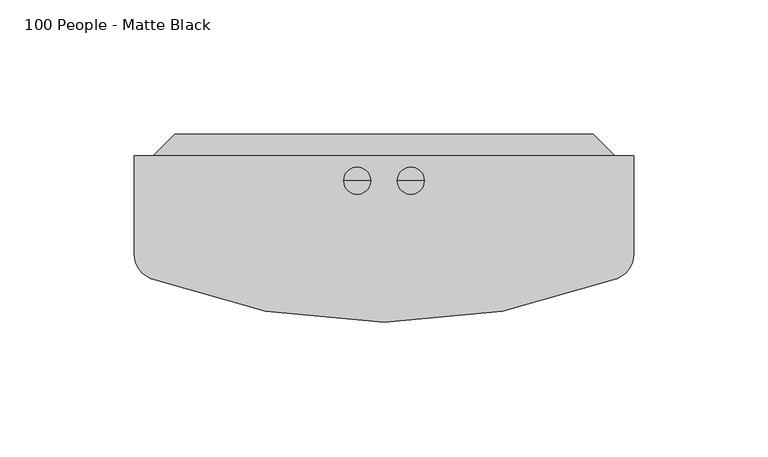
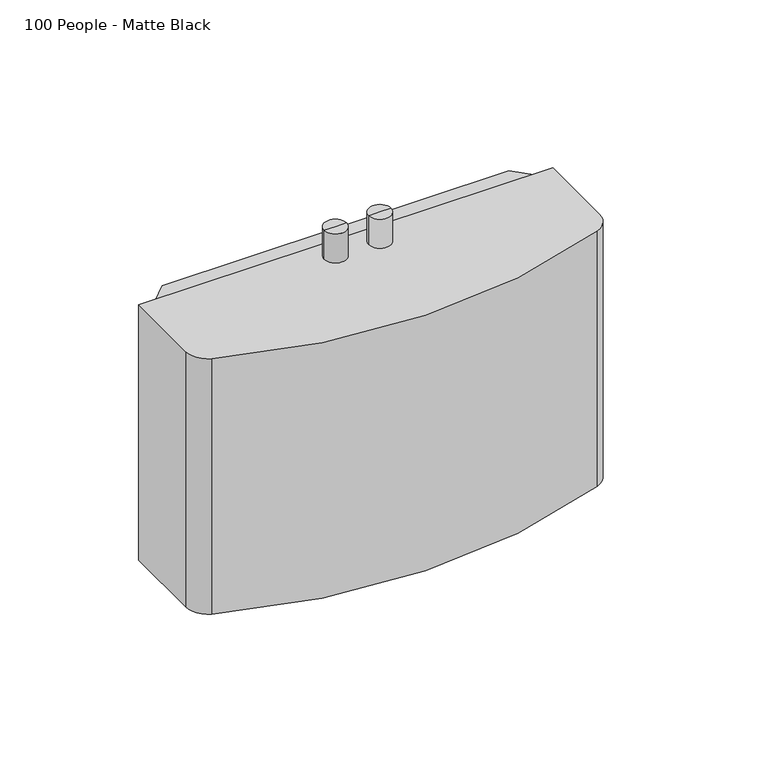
"""IFC4 building model written with IfcOpenShell, lengths in millimetres: flow terminal geometry, PlumFixt_Zip Commercial_Classic_Arc Mixer_BCHA : 100 People - Matte Black."""

from ifc_helpers import new_model, si_unit, point, frame, frame_2d, origin, place, context, project, spatial, polyline, circle_curve, trimmed, segment, composite_curve, outline, extrude, source, transform, mapped, element, save
from ifc_brep_helpers import plane_surface, cylinder_surface, advanced_brep


def flow_terminal_100_people_matte_black_1da322c1(model_context):
    return source(origin(), model_context, "Body", "SolidModel", [
        advanced_brep(
        [(-9.0, 268.188161, 633.0), (-14.0, 268.188161, 633.0), (-4.0, 268.188161, 633.0), (-4.0, 268.188161, 619.25), (-14.0, 268.188161, 619.25), (-9.0, 268.188161, 619.25)],
        [
            (0, 1),
            (1, 2, circle_curve(frame((-9.0, 268.188161, 633.0), z_axis=(0.0, 0.0, 1.0), x_axis=(-1.0, 0.0, 0.0)), 5.0)),
            (2, 0),
            (2, 1, circle_curve(frame((-9.0, 268.188161, 633.0), z_axis=(0.0, 0.0, 1.0), x_axis=(-1.0, 0.0, 0.0)), 5.0)),
            (3, 4, circle_curve(frame((-9.0, 268.188161, 619.25), z_axis=(0.0, 0.0, -1.0), x_axis=(-1.0, 0.0, 0.0)), 5.0)),
            (4, 5),
            (5, 3),
            (4, 3, circle_curve(frame((-9.0, 268.188161, 619.25), z_axis=(0.0, 0.0, -1.0), x_axis=(-1.0, 0.0, 0.0)), 5.0)),
            (1, 4),
            (3, 2),
        ],
        [
            plane_surface(frame((-9.0, 268.188161, 633.0), z_axis=(0.0, 0.0, 1.0), x_axis=(-1.0, 0.0, 0.0))),
            plane_surface(frame((-9.0, 268.188161, 619.25), z_axis=(0.0, 0.0, -1.0), x_axis=(-1.0, 0.0, 0.0))),
            cylinder_surface(frame((-9.0, 268.188161, 621.734876), z_axis=(0.0, 0.0, 1.0), x_axis=(-1.0, 0.0, 0.0)), 5.0),
        ],
        [
            (0, [[1, 2, 3]]),
            (0, [[-3, 4, -1]]),
            (1, [[5, 6, 7]]),
            (1, [[8, -7, -6]]),
            (2, [[-2, 9, -5, 10]]),
            (2, [[-4, -10, -8, -9]]),
        ],
    ),
        advanced_brep(
        [(6.0, 268.188161, 633.0), (16.0, 268.188161, 633.0), (11.0, 268.188161, 633.0), (11.0, 268.188161, 619.25), (16.0, 268.188161, 619.25), (6.0, 268.188161, 619.25)],
        [
            (0, 1, circle_curve(frame((11.0, 268.188161, 633.0), z_axis=(0.0, 0.0, 1.0), x_axis=(1.0, 0.0, 0.0)), 5.0)),
            (1, 2),
            (2, 0),
            (1, 0, circle_curve(frame((11.0, 268.188161, 633.0), z_axis=(0.0, 0.0, 1.0), x_axis=(1.0, 0.0, 0.0)), 5.0)),
            (3, 4),
            (4, 5, circle_curve(frame((11.0, 268.188161, 619.25), z_axis=(0.0, 0.0, -1.0), x_axis=(1.0, 0.0, 0.0)), 5.0)),
            (5, 3),
            (5, 4, circle_curve(frame((11.0, 268.188161, 619.25), z_axis=(0.0, 0.0, -1.0), x_axis=(1.0, 0.0, 0.0)), 5.0)),
            (4, 1),
            (0, 5),
        ],
        [
            plane_surface(frame((11.0, 268.188161, 633.0), z_axis=(0.0, 0.0, 1.0), x_axis=(1.0, 0.0, 0.0))),
            plane_surface(frame((11.0, 268.188161, 619.25), z_axis=(0.0, 0.0, -1.0), x_axis=(1.0, 0.0, 0.0))),
            cylinder_surface(frame((11.0, 268.188161, 621.734876), z_axis=(0.0, 0.0, -1.0), x_axis=(1.0, 0.0, 0.0)), 5.0),
        ],
        [
            (0, [[1, 2, 3]]),
            (0, [[4, -3, -2]]),
            (1, [[5, 6, 7]]),
            (1, [[-7, 8, -5]]),
            (2, [[-6, 9, -1, 10]]),
            (2, [[-8, -10, -4, -9]]),
        ],
    ),
        extrude(outline(polyline([(78.9446111, 285.5), (86.9446111, 277.5), (-84.9446111, 277.5), (-76.9446111, 285.5), (78.9446111, 285.5)])), frame((0.0, 0.0, 499.0), z_axis=(0.0, 0.0, 1.0), x_axis=(1.0, 0.0, 0.0)), (0.0, 0.0, 1.0), 119.25),
        extrude(outline(composite_curve([segment(polyline([(-92.0, 277.5), (94.0, 277.5), (94.0, 241.0019385)]), True, "CONTINUOUS"), segment(trimmed(circle_curve(frame_2d((84.0, 241.0019385)), 10.0), [point((94.0, 241.0019385))], [point((87.6094962, 231.6760854))], False, "CARTESIAN"), True, "CONTINUOUS"), segment(trimmed(circle_curve(frame_2d((1.0, 455.4489865)), 239.9489865), [point((87.6094962, 231.6760854))], [point((-85.6094962, 231.6760854))], False, "CARTESIAN"), True, "CONTINUOUS"), segment(trimmed(circle_curve(frame_2d((-82.0, 241.0019385)), 10.0), [point((-85.6094962, 231.6760854))], [point((-92.0, 241.0019385))], False, "CARTESIAN"), True, "CONTINUOUS"), segment(polyline([(-92.0, 241.0019385), (-92.0, 277.5)]), True, "CONTINUOUS")], self_intersect=False)), frame((0.0, 0.0, 498.0), z_axis=(0.0, 0.0, 1.0), x_axis=(1.0, 0.0, 0.0)), (0.0, 0.0, 1.0), 121.25),
    ])


if __name__ == "__main__":
    model = new_model("IFC4")
    model_context = context("Model", 3, world=origin())
    ifc_project = project(units=[si_unit("LENGTHUNIT", "METRE", prefix="MILLI")], contexts=[model_context])
    site = spatial("IfcSite", under=ifc_project)
    building = spatial("IfcBuilding", under=site)
    placement = place(None, origin())
    flow_terminal_100_people_matte_black_shape = flow_terminal_100_people_matte_black_1da322c1(model_context)
    element("IfcFlowTerminal", 1, ObjectType="PlumFixt_Zip Commercial_Classic_Arc Mixer_BCHA : 100 People - Matte Black", at=placement, inside=building, context=model_context, shape_type="MappedRepresentation", body=[
        mapped(flow_terminal_100_people_matte_black_shape, transform((0.0, 0.0, 0.0), x_axis=(1.0, 0.0, 0.0), y_axis=(0.0, 1.0, 0.0), z_axis=(0.0, 0.0, 1.0))),
    ])
    save(model, "model.ifc")
